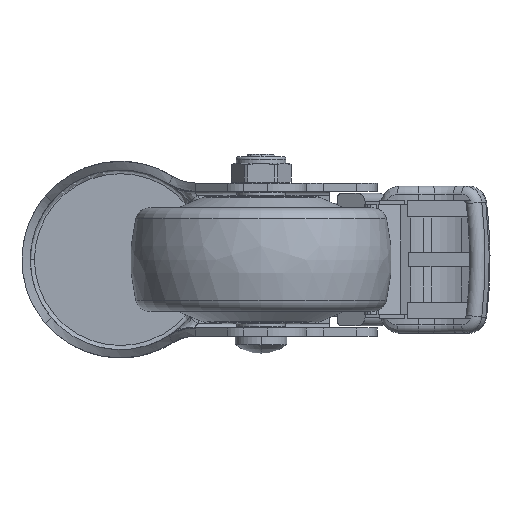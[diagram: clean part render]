
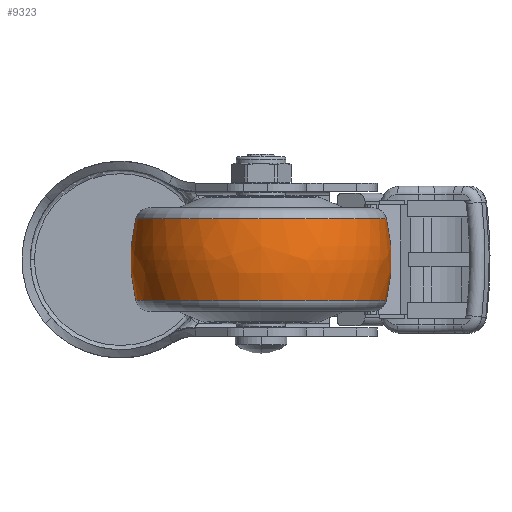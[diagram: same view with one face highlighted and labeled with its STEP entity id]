
A CAD part, front view. The second image highlights one B-rep face of the part: STEP entity #9323.
In plain terms, the highlighted free-form (B-spline) face has degree [3, 3] with [7, 4] control points.
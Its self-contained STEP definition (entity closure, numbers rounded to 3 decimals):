
#8809=CARTESIAN_POINT('',(0.,-8.5,0.));
#8810=DIRECTION('',(0.,0.,1.));
#8811=DIRECTION('',(0.247,0.969,0.));
#8812=AXIS2_PLACEMENT_3D('',#8809,#8810,#8811);
#8814=CARTESIAN_POINT('',(0.,8.5,0.));
#8815=DIRECTION('',(0.,0.,-1.));
#8816=DIRECTION('',(0.247,-0.969,0.));
#8817=AXIS2_PLACEMENT_3D('',#8814,#8815,#8816);
#8819=CARTESIAN_POINT('',(9.863,0.,0.));
#8820=DIRECTION('',(-1.,0.,0.));
#8821=DIRECTION('',(0.,1.,0.));
#8822=AXIS2_PLACEMENT_3D('',#8819,#8820,#8821);
#8844=CARTESIAN_POINT('',(-9.863,0.,0.));
#8845=DIRECTION('',(-1.,0.,0.));
#8846=DIRECTION('',(0.,1.,0.));
#8847=AXIS2_PLACEMENT_3D('',#8844,#8845,#8846);
#8974=CARTESIAN_POINT('',(9.863,30.265,0.));
#8976=VERTEX_POINT('',#8974);
#8977=CARTESIAN_POINT('',(-9.863,30.265,0.));
#8978=VERTEX_POINT('',#8977);
#9014=CARTESIAN_POINT('',(9.863,-30.265,0.));
#9016=VERTEX_POINT('',#9014);
#9017=CARTESIAN_POINT('',(-9.863,-30.265,0.));
#9018=VERTEX_POINT('',#9017);
#9285=CARTESIAN_POINT('',(-10.249,-30.105,
1.894));
#9286=CARTESIAN_POINT('',(-3.494,-31.892,
2.006));
#9287=CARTESIAN_POINT('',(3.494,-31.892,2.006));
#9288=CARTESIAN_POINT('',(10.249,-30.105,1.894));
#9289=CARTESIAN_POINT('',(-10.249,-31.271,
-16.633));
#9290=CARTESIAN_POINT('',(-3.494,-33.127,
-17.62));
#9291=CARTESIAN_POINT('',(3.494,-33.127,
-17.62));
#9292=CARTESIAN_POINT('',(10.249,-31.271,
-16.633));
#9293=CARTESIAN_POINT('',(-10.249,-18.563,
-30.165));
#9294=CARTESIAN_POINT('',(-3.494,-19.665,
-31.955));
#9295=CARTESIAN_POINT('',(3.494,-19.665,
-31.955));
#9296=CARTESIAN_POINT('',(10.249,-18.563,
-30.165));
#9297=CARTESIAN_POINT('',(-10.249,0.,-30.165));
#9298=CARTESIAN_POINT('',(-3.494,0.,-31.955));
#9299=CARTESIAN_POINT('',(3.494,0.,-31.955));
#9300=CARTESIAN_POINT('',(10.249,0.,-30.165));
#9301=CARTESIAN_POINT('',(-10.249,18.563,
-30.165));
#9302=CARTESIAN_POINT('',(-3.494,19.665,
-31.955));
#9303=CARTESIAN_POINT('',(3.494,19.665,-31.955));
#9304=CARTESIAN_POINT('',(10.249,18.563,-30.165));
#9305=CARTESIAN_POINT('',(-10.249,31.271,
-16.633));
#9306=CARTESIAN_POINT('',(-3.494,33.127,
-17.62));
#9307=CARTESIAN_POINT('',(3.494,33.127,-17.62));
#9308=CARTESIAN_POINT('',(10.249,31.271,-16.633));
#9309=CARTESIAN_POINT('',(-10.249,30.105,1.894));
#9310=CARTESIAN_POINT('',(-3.494,31.892,2.006));
#9311=CARTESIAN_POINT('',(3.494,31.892,2.006));
#9312=CARTESIAN_POINT('',(10.249,30.105,1.894));
#9313=(BOUNDED_SURFACE()B_SPLINE_SURFACE(3,3,((#9285,#9286,#9287,#9288),(#9289,
#9290,#9291,#9292),(#9293,#9294,#9295,#9296),(#9297,#9298,#9299,#9300),(#9301,
#9302,#9303,#9304),(#9305,#9306,#9307,#9308),(#9309,#9310,#9311,#9312)),
.UNSPECIFIED.,.F.,.F.,.F.)B_SPLINE_SURFACE_WITH_KNOTS((4,3,4),(4,4),(0.,1.,
2.),(0.,1.),.UNSPECIFIED.)GEOMETRIC_REPRESENTATION_ITEM()RATIONAL_B_SPLINE_SURFACE(((1.207,1.181,1.181,1.207),(
0.953,0.932,0.932,0.953),(
0.953,0.932,0.932,0.953),(
1.207,1.181,1.181,1.207),(
0.953,0.932,0.932,0.953),(
0.953,0.932,0.932,0.953),(
1.207,1.181,1.181,1.207)))REPRESENTATION_ITEM('')SURFACE());
#9315=ORIENTED_EDGE('',*,*,#9314,.T.);
#9317=ORIENTED_EDGE('',*,*,#9316,.T.);
#9319=ORIENTED_EDGE('',*,*,#9318,.F.);
#9320=ORIENTED_EDGE('',*,*,#9278,.F.);
#9321=EDGE_LOOP('',(#9315,#9317,#9319,#9320));
#9322=FACE_OUTER_BOUND('',#9321,.F.);
#8813=CIRCLE('',#8812,40.);
#8818=CIRCLE('',#8817,40.);
#8823=CIRCLE('',#8822,30.265);
#8848=CIRCLE('',#8847,30.265);
#9278=EDGE_CURVE('',#8976,#9016,#8823,.T.);
#9314=EDGE_CURVE('',#8976,#8978,#8813,.T.);
#9316=EDGE_CURVE('',#8978,#9018,#8848,.T.);
#9318=EDGE_CURVE('',#9016,#9018,#8818,.T.);
#9323=ADVANCED_FACE('',(#9322),#9313,.T.);
